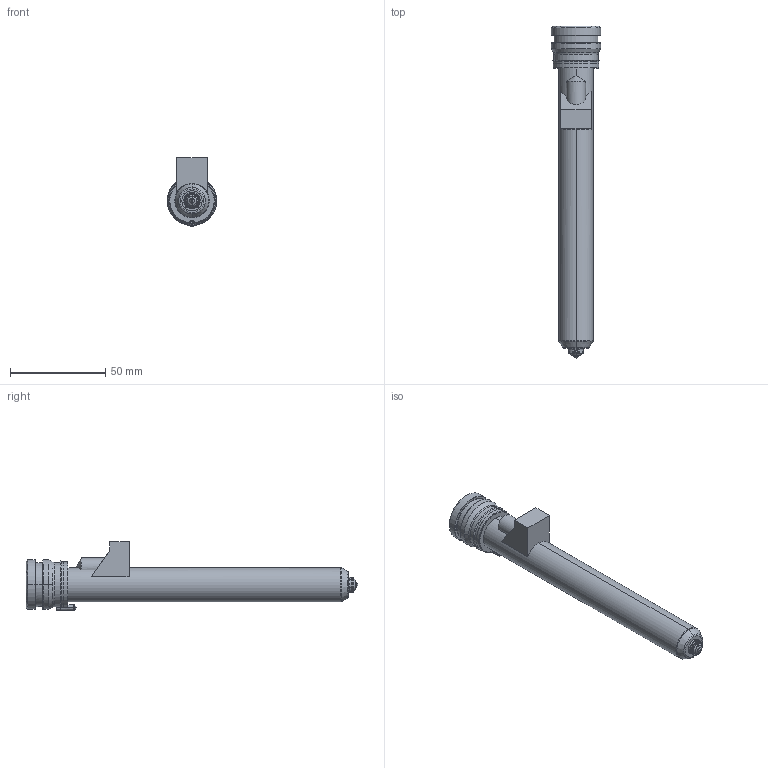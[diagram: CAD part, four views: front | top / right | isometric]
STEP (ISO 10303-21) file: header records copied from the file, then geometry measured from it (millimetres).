
FILE_DESCRIPTION((''),'2;1');
FILE_NAME('TH18156-M-1-PK-JG','2023-12-14T',('umhib'),('Thermoplay S.p.A.'),'PRO/ENGINEER BY PARAMETRIC TECHNOLOGY CORPORATION, 2017170','PRO/ENGINEER BY PARAMETRIC TECHNOLOGY CORPORATION, 2017170','');
FILE_SCHEMA(('CONFIG_CONTROL_DESIGN'));
Length unit declared in the file: millimetre
Products named in the file (1): TH18156-M-1-PK-JG
Bounding box: 26 x 174 x 36.1 mm (x, y, z)
Volume: 35086.3 mm3; surface area: 26459.4 mm2
Topology: 1 solids, 2 shells, 391 faces, 999 edges, 613 vertices
Faces by surface type: cylinder 149, plane 87, cone 62, torus 58, bspline 22, sphere 11, extrusion 2
Entity records: 16788 total; most frequent: CARTESIAN_POINT 5160, DIRECTION 2000, ORIENTED_EDGE 1972, EDGE_CURVE 988, AXIS2_PLACEMENT_3D 806, VERTEX_POINT 613, CIRCLE 438, EDGE_LOOP 414
